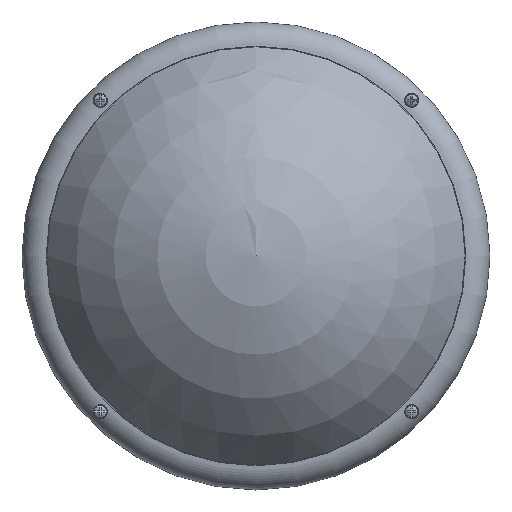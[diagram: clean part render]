
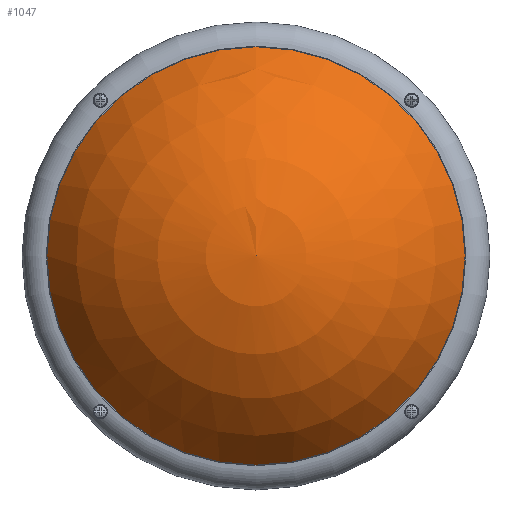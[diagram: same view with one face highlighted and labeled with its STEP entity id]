
A CAD part, top view. The second image highlights one B-rep face of the part: STEP entity #1047.
In plain terms, the highlighted spherical face has radius 138 mm.
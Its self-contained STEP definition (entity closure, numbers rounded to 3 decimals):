
#78=SPHERICAL_SURFACE('',#3285,138.);
#468=CIRCLE('',#3284,120.644);
#1047=ADVANCED_FACE('',(#1159),#78,.T.);
#1159=FACE_OUTER_BOUND('',#1292,.T.);
#1292=EDGE_LOOP('',(#1737));
#1737=ORIENTED_EDGE('',*,*,#2625,.T.);
#2179=VERTEX_POINT('',#5041);
#2625=EDGE_CURVE('',#2179,#2179,#468,.T.);
#3284=AXIS2_PLACEMENT_3D('',#5040,#3954,#3955);
#3285=AXIS2_PLACEMENT_3D('',#5042,#3956,#3957);
#3954=DIRECTION('',(0.,0.,1.));
#3955=DIRECTION('',(1.,0.,0.));
#3956=DIRECTION('',(0.,0.,1.));
#3957=DIRECTION('',(0.,1.,0.));
#5040=CARTESIAN_POINT('',(0.,0.,59.));
#5041=CARTESIAN_POINT('',(120.644,0.,59.));
#5042=CARTESIAN_POINT('',(0.,0.,-8.));
